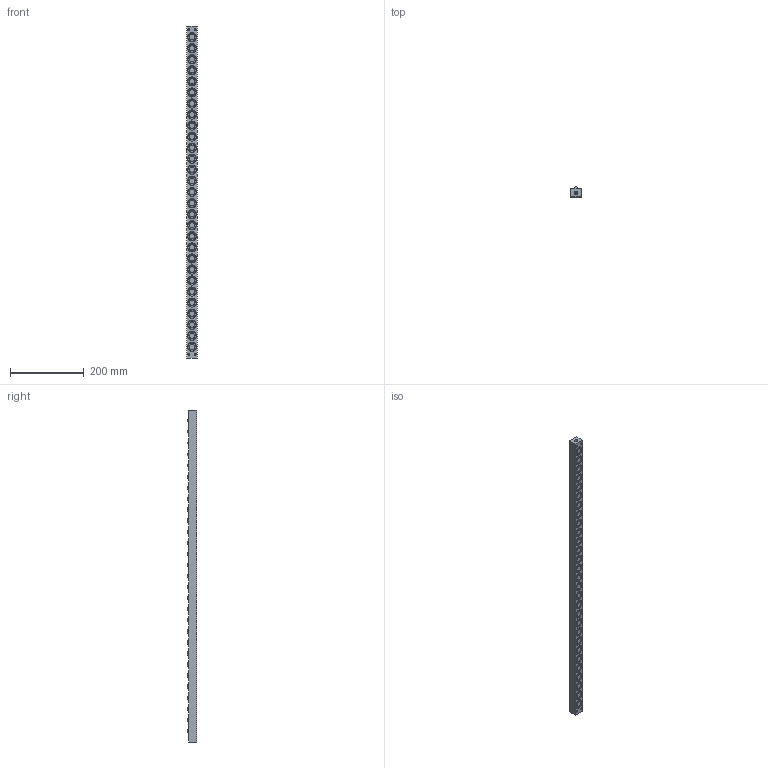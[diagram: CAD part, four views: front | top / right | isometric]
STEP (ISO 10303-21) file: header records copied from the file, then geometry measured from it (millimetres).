
FILE_DESCRIPTION (( 'STEP AP203' ), '1' );
FILE_NAME ('PVL17S-29.STEP', '2016-02-18T04:26:21', ( '' ), ( '' ), 'SwSTEP 2.0', 'SolidWorks 2013', '' );
FILE_SCHEMA (( 'CONFIG_CONTROL_DESIGN' ));
Length unit declared in the file: millimetre
Products named in the file (1): PVL17S-29
Bounding box: 28 x 26 x 900 mm (x, y, z)
Volume: 543745.5 mm3; surface area: 123023.2 mm2
Topology: 1 solids, 1 shells, 932 faces, 2193 edges, 1470 vertices
Faces by surface type: cylinder 598, plane 272, sphere 58, cone 4
Entity records: 27626 total; most frequent: DIRECTION 5431, CARTESIAN_POINT 4594, ORIENTED_EDGE 4382, AXIS2_PLACEMENT_3D 2307, EDGE_CURVE 2191, VERTEX_POINT 1470, CIRCLE 1374, EDGE_LOOP 1149
